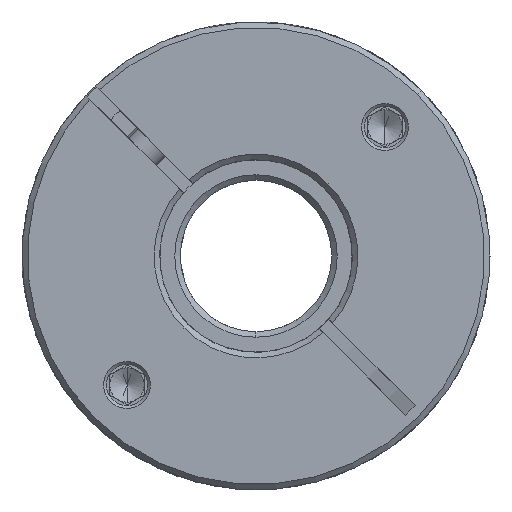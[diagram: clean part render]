
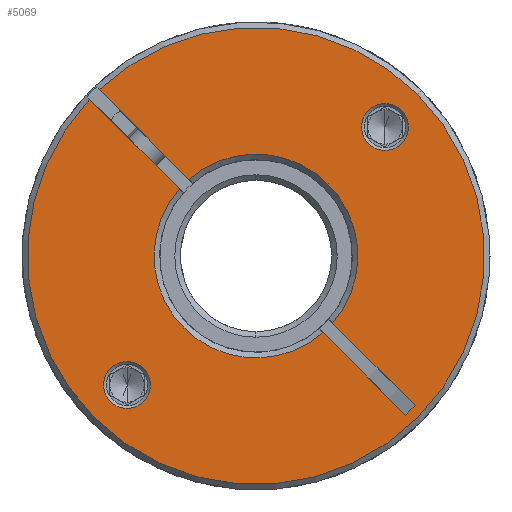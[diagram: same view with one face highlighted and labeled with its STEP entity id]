
A CAD part, front view. The second image highlights one B-rep face of the part: STEP entity #5069.
In plain terms, the highlighted planar face has unit normal (0, -1, 0).
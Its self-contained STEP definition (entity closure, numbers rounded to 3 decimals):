
#44 = LINE ( 'NONE', #9453, #20922 ) ;
#102 = DIRECTION ( 'NONE',  ( 0.707, 0., 0.707 ) ) ;
#118 = VERTEX_POINT ( 'NONE', #16696 ) ;
#222 = EDGE_CURVE ( 'NONE', #2965, #1918, #1208, .T. ) ;
#685 = EDGE_CURVE ( 'NONE', #9661, #9964, #12277, .T. ) ;
#882 = CARTESIAN_POINT ( 'NONE',  ( 20.741, -67.045, 91.476 ) ) ;
#1086 = EDGE_CURVE ( 'NONE', #8240, #10633, #11371, .T. ) ;
#1208 = CIRCLE ( 'NONE', #20934, 14.8 ) ;
#1233 = ORIENTED_EDGE ( 'NONE', *, *, #2415, .T. ) ;
#1324 = VERTEX_POINT ( 'NONE', #882 ) ;
#1349 = ORIENTED_EDGE ( 'NONE', *, *, #7486, .T. ) ;
#1551 = ORIENTED_EDGE ( 'NONE', *, *, #11247, .T. ) ;
#1576 = ORIENTED_EDGE ( 'NONE', *, *, #3715, .T. ) ;
#1646 = CARTESIAN_POINT ( 'NONE',  ( 6.999, -67.045, 56.852 ) ) ;
#1918 = VERTEX_POINT ( 'NONE', #13022 ) ;
#2232 = VECTOR ( 'NONE', #12713, 1000. ) ;
#2269 = EDGE_CURVE ( 'NONE', #9964, #9661, #7207, .T. ) ;
#2415 = EDGE_CURVE ( 'NONE', #2967, #6729, #10799, .T. ) ;
#2436 = AXIS2_PLACEMENT_3D ( 'NONE', #10296, #3652, #5399 ) ;
#2806 = VERTEX_POINT ( 'NONE', #9440 ) ;
#2965 = VERTEX_POINT ( 'NONE', #18091 ) ;
#2967 = VERTEX_POINT ( 'NONE', #3146 ) ;
#3016 = CARTESIAN_POINT ( 'NONE',  ( 8.413, -67.045, 58.266 ) ) ;
#3146 = CARTESIAN_POINT ( 'NONE',  ( 13.599, -67.045, 84.334 ) ) ;
#3277 = DIRECTION ( 'NONE',  ( 0.707, 0., 0.707 ) ) ;
#3335 = DIRECTION ( 'NONE',  ( 0., -1., 0. ) ) ;
#3426 = AXIS2_PLACEMENT_3D ( 'NONE', #5539, #17039, #20503 ) ;
#3652 = DIRECTION ( 'NONE',  ( 0., -1., 0. ) ) ;
#3715 = EDGE_CURVE ( 'NONE', #2806, #1324, #19201, .T. ) ;
#4092 = CARTESIAN_POINT ( 'NONE',  ( -3.442, -67.045, 67.293 ) ) ;
#4176 = EDGE_CURVE ( 'NONE', #10362, #8240, #8168, .T. ) ;
#4361 = EDGE_CURVE ( 'NONE', #11007, #2965, #18448, .T. ) ;
#4404 = CIRCLE ( 'NONE', #16148, 14.8 ) ;
#4621 = CARTESIAN_POINT ( 'NONE',  ( -2.028, -67.045, 68.707 ) ) ;
#5014 = CARTESIAN_POINT ( 'NONE',  ( 18.988, -67.045, 44.862 ) ) ;
#5069 = ADVANCED_FACE ( 'NONE', ( #12250, #11473, #9456 ), #16427, .T. ) ;
#5328 = VECTOR ( 'NONE', #7579, 1000. ) ;
#5399 = DIRECTION ( 'NONE',  ( 0.707, 0., 0.707 ) ) ;
#5459 = DIRECTION ( 'NONE',  ( 0.707, 0., -0.707 ) ) ;
#5539 = CARTESIAN_POINT ( 'NONE',  ( -21.473, -67.045, 49.262 ) ) ;
#5572 = CARTESIAN_POINT ( 'NONE',  ( -26.908, -67.045, 90.758 ) ) ;
#6399 = DIRECTION ( 'NONE',  ( 0., 1., 0. ) ) ;
#6414 = AXIS2_PLACEMENT_3D ( 'NONE', #8890, #20365, #10506 ) ;
#6729 = VERTEX_POINT ( 'NONE', #20072 ) ;
#7092 = DIRECTION ( 'NONE',  ( 0., -1., 0. ) ) ;
#7207 = CIRCLE ( 'NONE', #20137, 3.4 ) ;
#7301 = EDGE_CURVE ( 'NONE', #13042, #10633, #44, .T. ) ;
#7453 = EDGE_CURVE ( 'NONE', #8171, #118, #18581, .T. ) ;
#7486 = EDGE_CURVE ( 'NONE', #1918, #10362, #18946, .T. ) ;
#7579 = DIRECTION ( 'NONE',  ( 0.707, 0., -0.707 ) ) ;
#7900 = ORIENTED_EDGE ( 'NONE', *, *, #4361, .T. ) ;
#8084 = DIRECTION ( 'NONE',  ( 0.707, 0., 0.707 ) ) ;
#8168 = LINE ( 'NONE', #20155, #5328 ) ;
#8171 = VERTEX_POINT ( 'NONE', #5572 ) ;
#8240 = VERTEX_POINT ( 'NONE', #17154 ) ;
#8355 = ORIENTED_EDGE ( 'NONE', *, *, #21344, .T. ) ;
#8441 = AXIS2_PLACEMENT_3D ( 'NONE', #13168, #3335, #11453 ) ;
#8652 = ORIENTED_EDGE ( 'NONE', *, *, #685, .T. ) ;
#8730 = CIRCLE ( 'NONE', #6414, 3.4 ) ;
#8890 = CARTESIAN_POINT ( 'NONE',  ( 16.003, -67.045, 86.738 ) ) ;
#9019 = AXIS2_PLACEMENT_3D ( 'NONE', #9885, #6399, #8084 ) ;
#9385 = DIRECTION ( 'NONE',  ( 0.707, 0., -0.707 ) ) ;
#9440 = CARTESIAN_POINT ( 'NONE',  ( -26.211, -67.045, 44.524 ) ) ;
#9453 = CARTESIAN_POINT ( 'NONE',  ( -3.442, -67.045, 67.293 ) ) ;
#9456 = FACE_OUTER_BOUND ( 'NONE', #15224, .T. ) ;
#9581 = AXIS2_PLACEMENT_3D ( 'NONE', #9877, #14919, #102 ) ;
#9661 = VERTEX_POINT ( 'NONE', #18642 ) ;
#9877 = CARTESIAN_POINT ( 'NONE',  ( -2.735, -67.045, 68. ) ) ;
#9885 = CARTESIAN_POINT ( 'NONE',  ( 16.003, -67.045, 86.738 ) ) ;
#9893 = EDGE_LOOP ( 'NONE', ( #12814, #1233 ) ) ;
#9964 = VERTEX_POINT ( 'NONE', #14813 ) ;
#10077 = ORIENTED_EDGE ( 'NONE', *, *, #2269, .T. ) ;
#10296 = CARTESIAN_POINT ( 'NONE',  ( -2.735, -67.045, 68. ) ) ;
#10362 = VERTEX_POINT ( 'NONE', #3016 ) ;
#10439 = DIRECTION ( 'NONE',  ( 0.707, 0., 0.707 ) ) ;
#10506 = DIRECTION ( 'NONE',  ( 0.707, 0., 0.707 ) ) ;
#10633 = VERTEX_POINT ( 'NONE', #19075 ) ;
#10646 = CARTESIAN_POINT ( 'NONE',  ( -25.493, -67.045, 92.172 ) ) ;
#10676 = DIRECTION ( 'NONE',  ( 0.707, 0., 0.707 ) ) ;
#10707 = ORIENTED_EDGE ( 'NONE', *, *, #11521, .T. ) ;
#10799 = CIRCLE ( 'NONE', #9019, 3.4 ) ;
#11007 = VERTEX_POINT ( 'NONE', #10646 ) ;
#11247 = EDGE_CURVE ( 'NONE', #1324, #11007, #19825, .T. ) ;
#11371 = LINE ( 'NONE', #5014, #20391 ) ;
#11453 = DIRECTION ( 'NONE',  ( 0.707, 0., 0.707 ) ) ;
#11473 = FACE_BOUND ( 'NONE', #12706, .T. ) ;
#11521 = EDGE_CURVE ( 'NONE', #13042, #118, #4404, .T. ) ;
#12076 = AXIS2_PLACEMENT_3D ( 'NONE', #18187, #17121, #17261 ) ;
#12250 = FACE_BOUND ( 'NONE', #9893, .T. ) ;
#12277 = CIRCLE ( 'NONE', #3426, 3.4 ) ;
#12706 = EDGE_LOOP ( 'NONE', ( #10077, #8652 ) ) ;
#12713 = DIRECTION ( 'NONE',  ( 0.707, 0., -0.707 ) ) ;
#12770 = ORIENTED_EDGE ( 'NONE', *, *, #222, .T. ) ;
#12814 = ORIENTED_EDGE ( 'NONE', *, *, #13120, .T. ) ;
#13022 = CARTESIAN_POINT ( 'NONE',  ( 7.73, -67.045, 78.465 ) ) ;
#13042 = VERTEX_POINT ( 'NONE', #1646 ) ;
#13120 = EDGE_CURVE ( 'NONE', #6729, #2967, #8730, .T. ) ;
#13168 = CARTESIAN_POINT ( 'NONE',  ( -2.735, -67.045, 68. ) ) ;
#14283 = DIRECTION ( 'NONE',  ( 0.707, 0., 0.707 ) ) ;
#14813 = CARTESIAN_POINT ( 'NONE',  ( -19.069, -67.045, 51.666 ) ) ;
#14919 = DIRECTION ( 'NONE',  ( 0., -1., 0. ) ) ;
#15045 = DIRECTION ( 'NONE',  ( 0., 1., 0. ) ) ;
#15224 = EDGE_LOOP ( 'NONE', ( #18646, #8355, #1576, #1551, #7900, #12770, #1349, #18555, #18753, #20654, #10707 ) ) ;
#15479 = CARTESIAN_POINT ( 'NONE',  ( -2.735, -67.045, 68. ) ) ;
#16148 = AXIS2_PLACEMENT_3D ( 'NONE', #18072, #15045, #3277 ) ;
#16280 = DIRECTION ( 'NONE',  ( -0.707, 0., -0.707 ) ) ;
#16427 = PLANE ( 'NONE',  #8441 ) ;
#16541 = VECTOR ( 'NONE', #5459, 1000. ) ;
#16696 = CARTESIAN_POINT ( 'NONE',  ( -13.883, -67.045, 77.734 ) ) ;
#17039 = DIRECTION ( 'NONE',  ( 0., 1., 0. ) ) ;
#17121 = DIRECTION ( 'NONE',  ( 0., 1., 0. ) ) ;
#17154 = CARTESIAN_POINT ( 'NONE',  ( 20.402, -67.045, 46.277 ) ) ;
#17189 = CARTESIAN_POINT ( 'NONE',  ( -2.735, -67.045, 68. ) ) ;
#17261 = DIRECTION ( 'NONE',  ( 0.707, 0., 0.707 ) ) ;
#17411 = CARTESIAN_POINT ( 'NONE',  ( -21.473, -67.045, 49.262 ) ) ;
#18072 = CARTESIAN_POINT ( 'NONE',  ( -2.735, -67.045, 68. ) ) ;
#18091 = CARTESIAN_POINT ( 'NONE',  ( -12.469, -67.045, 79.148 ) ) ;
#18187 = CARTESIAN_POINT ( 'NONE',  ( -2.735, -67.045, 68. ) ) ;
#18448 = LINE ( 'NONE', #4621, #2232 ) ;
#18555 = ORIENTED_EDGE ( 'NONE', *, *, #4176, .T. ) ;
#18581 = LINE ( 'NONE', #4092, #16541 ) ;
#18642 = CARTESIAN_POINT ( 'NONE',  ( -23.878, -67.045, 46.858 ) ) ;
#18646 = ORIENTED_EDGE ( 'NONE', *, *, #7453, .F. ) ;
#18738 = DIRECTION ( 'NONE',  ( 0., 1., 0. ) ) ;
#18753 = ORIENTED_EDGE ( 'NONE', *, *, #1086, .T. ) ;
#18946 = CIRCLE ( 'NONE', #12076, 14.8 ) ;
#19053 = AXIS2_PLACEMENT_3D ( 'NONE', #15479, #7092, #10676 ) ;
#19075 = CARTESIAN_POINT ( 'NONE',  ( 18.988, -67.045, 44.862 ) ) ;
#19111 = DIRECTION ( 'NONE',  ( 0., 1., 0. ) ) ;
#19201 = CIRCLE ( 'NONE', #2436, 33.2 ) ;
#19741 = CIRCLE ( 'NONE', #19053, 33.2 ) ;
#19825 = CIRCLE ( 'NONE', #9581, 33.2 ) ;
#20072 = CARTESIAN_POINT ( 'NONE',  ( 18.407, -67.045, 89.142 ) ) ;
#20137 = AXIS2_PLACEMENT_3D ( 'NONE', #17411, #19111, #14283 ) ;
#20155 = CARTESIAN_POINT ( 'NONE',  ( -2.028, -67.045, 68.707 ) ) ;
#20365 = DIRECTION ( 'NONE',  ( 0., 1., 0. ) ) ;
#20391 = VECTOR ( 'NONE', #16280, 1000. ) ;
#20503 = DIRECTION ( 'NONE',  ( 0.707, 0., 0.707 ) ) ;
#20654 = ORIENTED_EDGE ( 'NONE', *, *, #7301, .F. ) ;
#20922 = VECTOR ( 'NONE', #9385, 1000. ) ;
#20934 = AXIS2_PLACEMENT_3D ( 'NONE', #17189, #18738, #10439 ) ;
#21344 = EDGE_CURVE ( 'NONE', #8171, #2806, #19741, .T. ) ;
